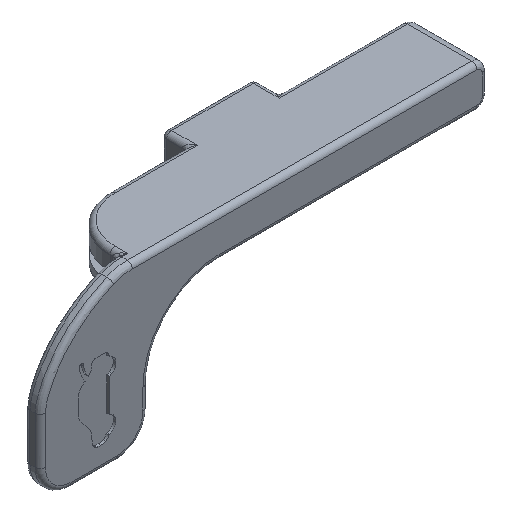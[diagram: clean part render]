
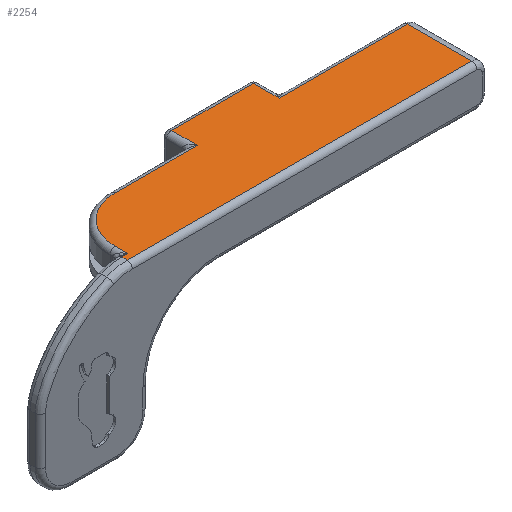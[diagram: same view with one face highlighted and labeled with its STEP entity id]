
A CAD part, isometric view. The second image highlights one B-rep face of the part: STEP entity #2254.
In plain terms, the highlighted planar face has unit normal (0, 0, 1).
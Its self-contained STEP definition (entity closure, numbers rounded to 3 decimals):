
#143=PLANE('',#2428);
#200=LINE('',#3393,#371);
#202=LINE('',#3398,#373);
#203=LINE('',#3399,#374);
#204=LINE('',#3406,#375);
#205=LINE('',#3408,#376);
#206=LINE('',#3410,#377);
#207=LINE('',#3412,#378);
#208=LINE('',#3414,#379);
#209=LINE('',#3415,#380);
#371=VECTOR('',#2671,10.);
#373=VECTOR('',#2677,10.);
#374=VECTOR('',#2678,10.);
#375=VECTOR('',#2679,10.);
#376=VECTOR('',#2680,10.);
#377=VECTOR('',#2681,10.);
#378=VECTOR('',#2682,10.);
#379=VECTOR('',#2683,10.);
#380=VECTOR('',#2684,10.);
#564=B_SPLINE_CURVE_WITH_KNOTS('',3,(#3401,#3402,#3403,#3404),
 .UNSPECIFIED.,.F.,.F.,(4,4),(-0.2,-0.1),.UNSPECIFIED.);
#590=FACE_OUTER_BOUND('',#729,.T.);
#729=EDGE_LOOP('',(#1601,#1602,#1603,#1604,#1605,#1606,#1607,#1608,#1609,
#1610,#1611));
#884=CIRCLE('',#2423,9.);
#949=VERTEX_POINT('',#3124);
#958=VERTEX_POINT('',#3236);
#988=VERTEX_POINT('',#3377);
#991=VERTEX_POINT('',#3382);
#994=VERTEX_POINT('',#3392);
#996=VERTEX_POINT('',#3400);
#997=VERTEX_POINT('',#3405);
#998=VERTEX_POINT('',#3407);
#999=VERTEX_POINT('',#3409);
#1000=VERTEX_POINT('',#3411);
#1001=VERTEX_POINT('',#3413);
#1219=EDGE_CURVE('',#991,#988,#884,.T.);
#1223=EDGE_CURVE('',#988,#994,#200,.T.);
#1226=EDGE_CURVE('',#949,#991,#202,.T.);
#1227=EDGE_CURVE('',#958,#949,#203,.T.);
#1228=EDGE_CURVE('',#996,#958,#564,.T.);
#1229=EDGE_CURVE('',#997,#996,#204,.T.);
#1230=EDGE_CURVE('',#997,#998,#205,.T.);
#1231=EDGE_CURVE('',#999,#998,#206,.T.);
#1232=EDGE_CURVE('',#1000,#999,#207,.T.);
#1233=EDGE_CURVE('',#1001,#1000,#208,.T.);
#1234=EDGE_CURVE('',#994,#1001,#209,.T.);
#1601=ORIENTED_EDGE('',*,*,#1219,.F.);
#1602=ORIENTED_EDGE('',*,*,#1226,.F.);
#1603=ORIENTED_EDGE('',*,*,#1227,.F.);
#1604=ORIENTED_EDGE('',*,*,#1228,.F.);
#1605=ORIENTED_EDGE('',*,*,#1229,.F.);
#1606=ORIENTED_EDGE('',*,*,#1230,.T.);
#1607=ORIENTED_EDGE('',*,*,#1231,.F.);
#1608=ORIENTED_EDGE('',*,*,#1232,.F.);
#1609=ORIENTED_EDGE('',*,*,#1233,.F.);
#1610=ORIENTED_EDGE('',*,*,#1234,.F.);
#1611=ORIENTED_EDGE('',*,*,#1223,.F.);
#2254=ADVANCED_FACE('',(#590),#143,.T.);
#2423=AXIS2_PLACEMENT_3D('',#3384,#2661,#2662);
#2428=AXIS2_PLACEMENT_3D('',#3397,#2675,#2676);
#2661=DIRECTION('center_axis',(0.,0.,-1.));
#2662=DIRECTION('ref_axis',(-0.707,0.707,0.));
#2671=DIRECTION('',(1.,0.,0.));
#2675=DIRECTION('center_axis',(0.,0.,1.));
#2676=DIRECTION('ref_axis',(1.,0.,0.));
#2677=DIRECTION('',(0.,1.,0.));
#2678=DIRECTION('',(1.,0.,0.));
#2679=DIRECTION('',(-1.,0.,0.));
#2680=DIRECTION('',(0.,1.,0.));
#2681=DIRECTION('',(1.,0.,0.));
#2682=DIRECTION('',(0.,-1.,0.));
#2683=DIRECTION('',(1.,0.,0.));
#2684=DIRECTION('',(0.,1.,0.));
#3124=CARTESIAN_POINT('',(-36.915,2.,18.));
#3236=CARTESIAN_POINT('',(-38.088,2.,18.));
#3377=CARTESIAN_POINT('',(-27.915,13.5,18.));
#3382=CARTESIAN_POINT('',(-36.915,4.5,18.));
#3384=CARTESIAN_POINT('Origin',(-27.915,4.5,18.));
#3392=CARTESIAN_POINT('',(-11.915,13.5,18.));
#3393=CARTESIAN_POINT('',(-42.458,13.5,18.));
#3397=CARTESIAN_POINT('Origin',(-47.,0.,18.));
#3398=CARTESIAN_POINT('',(-36.915,5.375,18.));
#3399=CARTESIAN_POINT('',(-36.,2.,18.));
#3400=CARTESIAN_POINT('',(-38.088,1.,18.));
#3401=CARTESIAN_POINT('Ctrl Pts',(-38.088,1.,18.));
#3402=CARTESIAN_POINT('Ctrl Pts',(-38.088,1.333,18.));
#3403=CARTESIAN_POINT('Ctrl Pts',(-38.088,1.667,18.));
#3404=CARTESIAN_POINT('Ctrl Pts',(-38.088,2.,18.));
#3405=CARTESIAN_POINT('',(29.,1.,18.));
#3406=CARTESIAN_POINT('',(-36.,1.,18.));
#3407=CARTESIAN_POINT('',(29.,13.5,18.));
#3408=CARTESIAN_POINT('',(29.,0.,18.));
#3409=CARTESIAN_POINT('',(4.,13.5,18.));
#3410=CARTESIAN_POINT('',(-14.5,13.5,18.));
#3411=CARTESIAN_POINT('',(4.,18.5,18.));
#3412=CARTESIAN_POINT('',(4.,9.25,18.));
#3413=CARTESIAN_POINT('',(-11.915,18.5,18.));
#3414=CARTESIAN_POINT('',(-36.,18.5,18.));
#3415=CARTESIAN_POINT('',(-11.915,8.5,18.));
